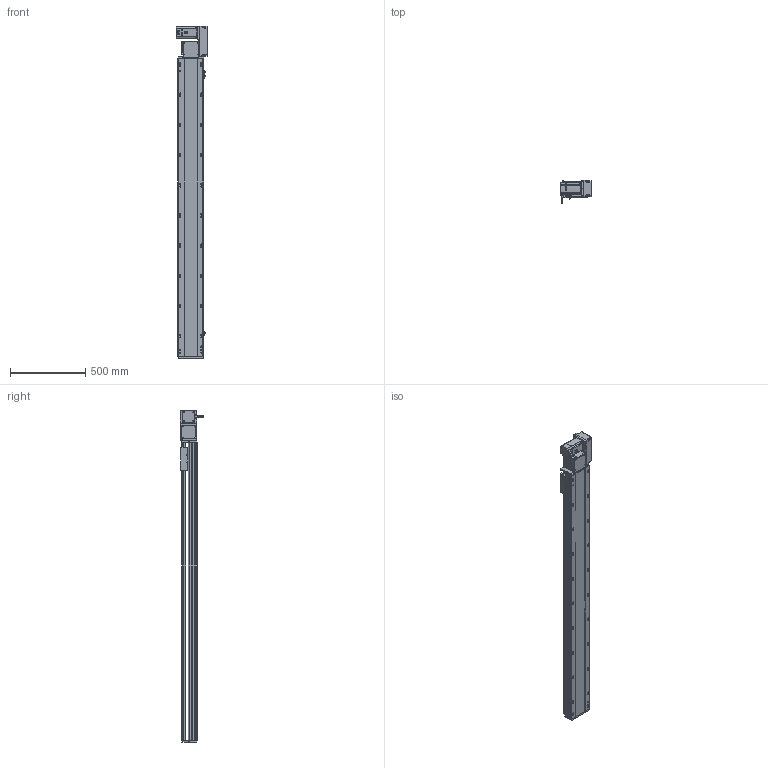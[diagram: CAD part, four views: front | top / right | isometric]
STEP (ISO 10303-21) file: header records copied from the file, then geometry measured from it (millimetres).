
FILE_DESCRIPTION (( 'STEP AP214' ), '1' );
FILE_NAME ('RTB17S-XX-1700-R-M75-C4.STEP', '2025-12-12T01:39:30', ( '' ), ( '' ), 'SwSTEP 2.0', 'SolidWorks 2018', '' );
FILE_SCHEMA (( 'AUTOMOTIVE_DESIGN' ));
Length unit declared in the file: millimetre
Products named in the file (15): RTB17S-R-々湍釱蚾饜-750W^RTB17S-XX-XX-R-M75-C4; RTB22S-GY-018P^RTB17S-R-々湍釱蚾饜-750W_RTB17S-XX-XX-R-M75-C4; 750W萇儂^RTB17S-XX-XX-R-M75-C4; RTH13-BL-012覜茼え俋离^RTB17S-賑釱_RTB17S-XX-XX-R-M75-C4; RTB17S-L-007奻裔^RTB17S-XX-XX-R-M75-C4; RTB17S-L-014-T20-P75--々湍釱^RTB17S-R-々湍釱蚾饜-750W_RTB17S-XX-XX-R-M75-C4; RTB17S-賑釱^RTB17S-XX-XX-R-M75-C4; RTB17S-L-004-賑釱^RTB17S-賑釱_RTB17S-XX-XX-R-M75-C4; RTB17S-L-001-耜醱啣^RTB17S-XX-XX-R-M75-C4; RTB22S-GY-017P^RTB17S-R-々湍釱蚾饜-750W_RTB17S-XX-XX-R-M75-C4; EE672^RTB17S-XX-XX-R-M75-C4; RTB22S-GY-008-M75--萇儂啣^RTB17S-R-々湍釱蚾饜-750W_RTB17S-XX-XX-R-M75-C4; RTB22S-GY-005P^RTB17S-R-々湍釱蚾饜-750W_RTB17S-XX-XX-R-M75-C4; RTB17S-XX-1700-R-M75-C4; RTB17-R-011菁釱^RTB17S-XX-XX-R-M75-C4
Assembly tree (17 placements, depth 3):
  RTB17S-XX-1700-R-M75-C4
    RTB17-R-011菁釱^RTB17S-XX-XX-R-M75-C4
    EE672^RTB17S-XX-XX-R-M75-C4  x3
    RTB17S-L-001-耜醱啣^RTB17S-XX-XX-R-M75-C4
    RTB17S-賑釱^RTB17S-XX-XX-R-M75-C4
      RTB17S-L-004-賑釱^RTB17S-賑釱_RTB17S-XX-XX-R-M75-C4
      RTH13-BL-012覜茼え俋离^RTB17S-賑釱_RTB17S-XX-XX-R-M75-C4
    RTB17S-L-007奻裔^RTB17S-XX-XX-R-M75-C4
    750W萇儂^RTB17S-XX-XX-R-M75-C4
    RTB17S-R-々湍釱蚾饜-750W^RTB17S-XX-XX-R-M75-C4
      RTB17S-L-014-T20-P75--々湍釱^RTB17S-R-々湍釱蚾饜-750W_RTB17S-XX-XX-R-M75-C4
      RTB22S-GY-005P^RTB17S-R-々湍釱蚾饜-750W_RTB17S-XX-XX-R-M75-C4
      RTB22S-GY-017P^RTB17S-R-々湍釱蚾饜-750W_RTB17S-XX-XX-R-M75-C4  x2
      RTB22S-GY-008-M75--萇儂啣^RTB17S-R-々湍釱蚾饜-750W_RTB17S-XX-XX-R-M75-C4
      RTB22S-GY-018P^RTB17S-R-々湍釱蚾饜-750W_RTB17S-XX-XX-R-M75-C4
Bounding box: 207.4 x 152.7 x 2199 mm (x, y, z)
Volume: 16574329.2 mm3; surface area: 2931648.8 mm2
Topology: 17 solids, 17 shells, 2153 faces, 5998 edges, 3878 vertices
Faces by surface type: plane 978, cylinder 759, bspline 294, cone 110, sphere 8, torus 4
Entity records: 61174 total; most frequent: CARTESIAN_POINT 18062, ORIENTED_EDGE 8840, DIRECTION 8222, EDGE_CURVE 4420, AXIS2_PLACEMENT_3D 2898, VERTEX_POINT 2882, VECTOR 2426, LINE 2426
